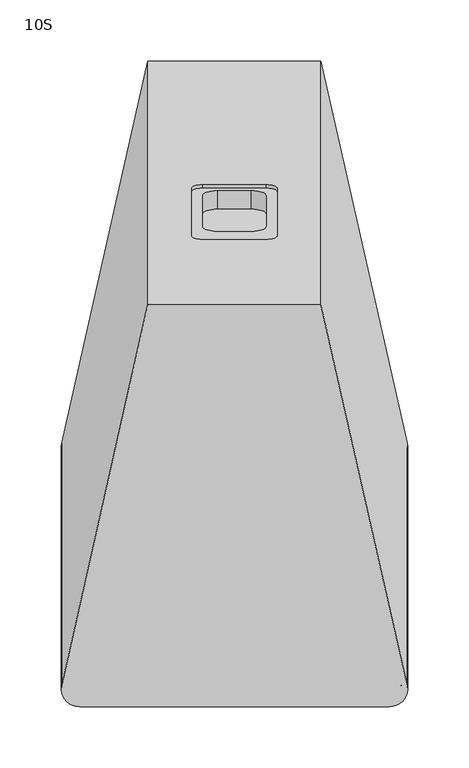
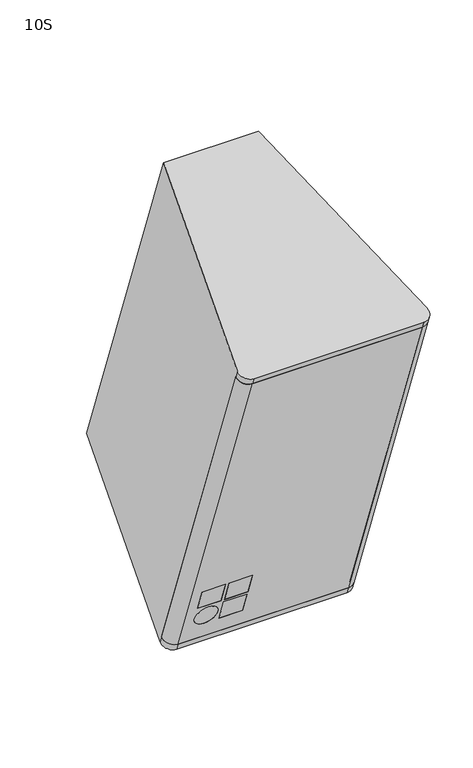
"""IFC4 building model written with IfcOpenShell, lengths in millimetres: proxy geometry, d&b xS-Series 10S Point Source : 10S."""

from ifc_helpers import new_model, si_unit, point, frame, frame_2d, origin, place, context, project, spatial, polyline, circle_curve, trimmed, segment, composite_curve, outline, extrude, source, transform, mapped, element, save
from ifc_brep_helpers import plane_surface, cylinder_surface, revolved_surface, advanced_brep


def proxy_10s_61797318(model_context):
    return source(origin(), model_context, "Body", "SolidModel", [
        extrude(outline(composite_curve([segment(trimmed(circle_curve(frame_2d((267.6252994, -3.1186753)), 10.0), [point((277.1265553, 0.0))], [point((267.6252994, -13.1186754))], False, "CARTESIAN"), True, "CONTINUOUS"), segment(polyline([(267.6252994, -13.1186754), (14.672214, -13.1186754)]), True, "CONTINUOUS"), segment(trimmed(circle_curve(frame_2d((14.672214, -3.1186753)), 10.0), [point((14.672214, -13.1186754))], [point((5.1709581, 0.0))], False, "CARTESIAN"), True, "CONTINUOUS"), segment(polyline([(5.1709581, 0.0), (277.1265553, 0.0)]), True, "CONTINUOUS")], self_intersect=False)), frame((-141.1487567, -2.2137391, -297.7113336), z_axis=(0.0, -0.34202014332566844, 0.9396926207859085), x_axis=(1.0, 0.0, 0.0)), (0.0, 0.0, 1.0), 558.0),
        advanced_brep(
        [(-76.4765427, -54.8098195, -206.180253), (-76.4765427, -50.1113564, -204.4701523), (-76.4765427, -38.1406514, -237.359394), (-76.4765427, -42.8391145, -239.0694948), (-111.4765427, -38.1406514, -237.359394), (-111.4765427, -42.8391145, -239.0694948), (-111.4765427, -50.1113564, -204.4701523), (-111.4765427, -54.8098195, -206.180253), (-36.4765427, -54.8098195, -206.180253), (-36.4765427, -50.1113564, -204.4701523), (-36.4765427, -38.1406514, -237.359394), (-36.4765427, -42.8391145, -239.0694948), (-71.4765427, -38.1406514, -237.359394), (-71.4765427, -42.8391145, -239.0694948), (-71.4765427, -50.1113564, -204.4701523), (-71.4765427, -54.8098195, -206.180253), (-36.4765427, -41.1290138, -243.7679579), (-36.4765427, -36.4305507, -242.0578571), (-36.4765427, -24.4598456, -274.9470989), (-36.4765427, -29.1583087, -276.6571996), (-71.4765427, -24.4598456, -274.9470989), (-71.4765427, -29.1583087, -276.6571996), (-71.4765427, -36.4305507, -242.0578571), (-71.4765427, -41.1290138, -243.7679579), (-93.9765427, -29.1583087, -276.6571996), (-93.9765427, -24.4598456, -274.9470989), (-93.9765427, -36.4305507, -242.0578571), (-93.9765427, -41.1290138, -243.7679579), (-126.4765427, -210.0869646, 220.4401968), (126.4765427, -210.0869646, 220.4401968), (141.1487567, -193.060979, 226.6371488), (135.9777986, -193.060979, 226.6371488), (126.4765427, -205.3885015, 222.1502975), (-126.4765427, -205.3885015, 222.1502975), (-135.9777986, -193.060979, 226.6371488), (-141.1487567, -193.060979, 226.6371488), (-126.4765427, -19.2397246, -303.9082856), (-141.1487567, -2.2137391, -297.7113336), (-135.9777986, -2.2137391, -297.7113336), (-126.4765427, -14.5412615, -302.1981849), (126.4765427, -14.5412615, -302.1981849), (135.9777986, -2.2137391, -297.7113336), (141.1487567, -2.2137391, -297.7113336), (126.4765427, -19.2397246, -303.9082856)],
        [
            (0, 1),
            (1, 2),
            (2, 3),
            (3, 0),
            (2, 4),
            (4, 5),
            (5, 3),
            (4, 6),
            (6, 7),
            (7, 5),
            (0, 7),
            (6, 1),
            (8, 9),
            (9, 10),
            (10, 11),
            (11, 8),
            (10, 12),
            (12, 13),
            (13, 11),
            (12, 14),
            (14, 15),
            (15, 13),
            (8, 15),
            (14, 9),
            (16, 17),
            (17, 18),
            (18, 19),
            (19, 16),
            (18, 20),
            (20, 21),
            (21, 19),
            (20, 22),
            (22, 23),
            (23, 21),
            (16, 23),
            (22, 17),
            (24, 25),
            (25, 26, circle_curve(frame((-93.9765427, -30.4451982, -258.502478), z_axis=(0.0, 0.939692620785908, 0.34202014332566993), x_axis=(0.0, -0.34202014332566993, 0.939692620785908)), 17.5)),
            (26, 27),
            (27, 24, circle_curve(frame((-93.9765427, -35.1436613, -260.2125787), z_axis=(0.0, -0.939692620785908, -0.34202014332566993), x_axis=(0.0, -0.34202014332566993, 0.939692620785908)), 17.5)),
            (24, 27, circle_curve(frame((-93.9765427, -35.1436613, -260.2125787), z_axis=(0.0, -0.939692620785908, -0.34202014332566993), x_axis=(0.0, -0.34202014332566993, 0.939692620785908)), 17.5)),
            (26, 25, circle_curve(frame((-93.9765427, -30.4451982, -258.502478), z_axis=(0.0, 0.939692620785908, 0.34202014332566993), x_axis=(0.0, -0.34202014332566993, 0.939692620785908)), 17.5)),
            (28, 29),
            (29, 30, circle_curve(frame((126.4765427, -195.9915753, 225.570499), z_axis=(0.0, -0.34202014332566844, 0.9396926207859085), x_axis=(0.0, -0.9396926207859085, -0.34202014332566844)), 15.0)),
            (30, 31),
            (31, 32, circle_curve(frame((126.4765427, -195.9915753, 225.570499), z_axis=(0.0, 0.34202014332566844, -0.9396926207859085), x_axis=(0.0, -0.9396926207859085, -0.34202014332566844)), 10.0)),
            (32, 33),
            (33, 34, circle_curve(frame((-126.4765427, -195.9915753, 225.570499), z_axis=(0.0, 0.34202014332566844, -0.9396926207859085), x_axis=(0.0, -0.9396926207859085, -0.34202014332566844)), 10.0)),
            (34, 35),
            (35, 28, circle_curve(frame((-126.4765427, -195.9915753, 225.570499), z_axis=(0.0, -0.34202014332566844, 0.9396926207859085), x_axis=(0.0, -0.9396926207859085, -0.34202014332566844)), 15.0)),
            (36, 37, circle_curve(frame((-126.4765427, -5.1443353, -298.7779834), z_axis=(0.0, 0.34202014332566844, -0.9396926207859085), x_axis=(0.0, -0.9396926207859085, -0.34202014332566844)), 15.0)),
            (37, 38),
            (38, 39, circle_curve(frame((-126.4765427, -5.1443353, -298.7779834), z_axis=(0.0, -0.34202014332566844, 0.9396926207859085), x_axis=(0.0, -0.9396926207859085, -0.34202014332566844)), 10.0)),
            (39, 40),
            (40, 41, circle_curve(frame((126.4765427, -5.1443353, -298.7779834), z_axis=(0.0, -0.34202014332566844, 0.9396926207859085), x_axis=(0.0, -0.9396926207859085, -0.34202014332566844)), 10.0)),
            (41, 42),
            (42, 43, circle_curve(frame((126.4765427, -5.1443353, -298.7779834), z_axis=(0.0, 0.34202014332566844, -0.9396926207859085), x_axis=(0.0, -0.9396926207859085, -0.34202014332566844)), 15.0)),
            (43, 36),
            (28, 36),
            (43, 29),
            (42, 30),
            (41, 31),
            (40, 32),
            (39, 33),
            (38, 34),
            (37, 35),
        ],
        [
            plane_surface(frame((-76.4765427, -42.8391145, -239.0694948), z_axis=(-1.0, 0.0, 0.0), x_axis=(0.0, 0.9396926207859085, 0.34202014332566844))),
            plane_surface(frame((-111.4765427, -42.8391145, -239.0694948), z_axis=(0.0, -0.34202014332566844, 0.9396926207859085), x_axis=(0.0, 0.9396926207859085, 0.34202014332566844))),
            plane_surface(frame((-111.4765427, -54.8098195, -206.180253), z_axis=(1.0, 0.0, 0.0), x_axis=(0.0, 0.9396926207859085, 0.34202014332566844))),
            plane_surface(frame((-76.4765427, -54.8098195, -206.180253), z_axis=(0.0, 0.34202014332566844, -0.9396926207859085), x_axis=(0.0, 0.9396926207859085, 0.34202014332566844))),
            plane_surface(frame((-36.4765427, -42.8391145, -239.0694948), z_axis=(-1.0, 0.0, 0.0), x_axis=(0.0, 0.9396926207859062, 0.3420201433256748))),
            plane_surface(frame((-71.4765427, -42.8391145, -239.0694948), z_axis=(0.0, -0.3420201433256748, 0.9396926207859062), x_axis=(0.0, 0.9396926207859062, 0.3420201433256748))),
            plane_surface(frame((-71.4765427, -54.8098195, -206.180253), z_axis=(1.0, 0.0, 0.0), x_axis=(0.0, 0.9396926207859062, 0.3420201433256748))),
            plane_surface(frame((-36.4765427, -54.8098195, -206.180253), z_axis=(0.0, 0.3420201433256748, -0.9396926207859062), x_axis=(0.0, 0.9396926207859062, 0.3420201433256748))),
            plane_surface(frame((-36.4765427, -29.1583087, -276.6571996), z_axis=(-1.0, 0.0, 0.0), x_axis=(0.0, 0.9396926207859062, 0.3420201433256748))),
            plane_surface(frame((-71.4765427, -29.1583087, -276.6571996), z_axis=(0.0, -0.3420201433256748, 0.9396926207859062), x_axis=(0.0, 0.9396926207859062, 0.3420201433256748))),
            plane_surface(frame((-71.4765427, -41.1290138, -243.7679579), z_axis=(1.0, 0.0, 0.0), x_axis=(0.0, 0.9396926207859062, 0.3420201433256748))),
            plane_surface(frame((-36.4765427, -41.1290138, -243.7679579), z_axis=(0.0, 0.3420201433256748, -0.9396926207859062), x_axis=(0.0, 0.9396926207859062, 0.3420201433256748))),
            revolved_surface(polyline([(-93.9765427, -41.129013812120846, -243.76795786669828), (-93.9765427, -36.43055063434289, -242.0578571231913)]), (-93.9765427, -4.3665744, -249.0106352), (0.0, -0.939692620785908, -0.34202014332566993)),
            plane_surface(frame((126.4765427, -210.0869646, 220.4401968), z_axis=(0.0, -0.34202014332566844, 0.9396926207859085), x_axis=(1.0, 0.0, 0.0))),
            plane_surface(frame((126.4765427, -19.2397246, -303.9082856), z_axis=(0.0, 0.34202014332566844, -0.9396926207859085), x_axis=(-1.0, 0.0, 0.0))),
            plane_surface(frame((-126.4765427, -210.0869646, 220.4401968), z_axis=(0.0, -0.9396926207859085, -0.34202014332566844), x_axis=(0.0, 0.34202014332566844, -0.9396926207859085))),
            cylinder_surface(frame((126.4765427, -5.1443353, -298.7779834), z_axis=(0.0, -0.34202014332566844, 0.9396926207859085), x_axis=(0.0, -0.9396926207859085, -0.34202014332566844)), 15.0),
            plane_surface(frame((141.1487567, -193.060979, 226.6371488), z_axis=(0.0, 0.9396926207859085, 0.34202014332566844), x_axis=(0.0, 0.34202014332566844, -0.9396926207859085))),
            revolved_surface(polyline([(126.4765427, -14.541261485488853, -302.1981848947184), (126.4765427, -205.38850148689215, 222.15029757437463)]), (126.4765427, -5.1443353, -298.7779834), (0.0, 0.34202014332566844, -0.9396926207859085)),
            plane_surface(frame((126.4765427, -205.3885015, 222.1502975), z_axis=(0.0, 0.9396926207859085, 0.34202014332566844), x_axis=(0.0, 0.34202014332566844, -0.9396926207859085))),
            revolved_surface(polyline([(-126.4765427, -14.541261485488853, -302.1981848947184), (-126.4765427, -205.38850148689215, 222.15029757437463)]), (-126.4765427, -5.1443353, -298.7779834), (0.0, 0.34202014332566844, -0.9396926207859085)),
            plane_surface(frame((-135.9777986, -193.060979, 226.6371488), z_axis=(0.0, 0.9396926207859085, 0.34202014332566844), x_axis=(0.0, 0.34202014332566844, -0.9396926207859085))),
            cylinder_surface(frame((-126.4765427, -5.1443353, -298.7779834), z_axis=(0.0, -0.34202014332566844, 0.9396926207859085), x_axis=(0.0, -0.9396926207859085, -0.34202014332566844)), 15.0),
        ],
        [
            (0, [[1, 2, 3, 4]]),
            (1, [[-3, 5, 6, 7]]),
            (2, [[-6, 8, 9, 10]]),
            (3, [[-1, 11, -9, 12]]),
            (4, [[13, 14, 15, 16]]),
            (5, [[-15, 17, 18, 19]]),
            (6, [[-18, 20, 21, 22]]),
            (7, [[-13, 23, -21, 24]]),
            (8, [[25, 26, 27, 28]]),
            (9, [[-27, 29, 30, 31]]),
            (10, [[-30, 32, 33, 34]]),
            (11, [[-25, 35, -33, 36]]),
            (12, [[37, 38, 39, 40]]),
            (12, [[-37, 41, -39, 42]]),
            (13, [[43, 44, 45, 46, 47, 48, 49, 50]]),
            (14, [[51, 52, 53, 54, 55, 56, 57, 58]]),
            (15, [[-43, 59, -58, 60], [-4, -7, -10, -11], [-16, -19, -22, -23], [-28, -31, -34, -35], [-40, -41]]),
            (16, [[-44, -60, -57, 61]]),
            (17, [[-45, -61, -56, 62]]),
            (18, [[-46, -62, -55, 63]]),
            (19, [[-47, -63, -54, 64], [-2, -12, -8, -5], [-14, -24, -20, -17], [-26, -36, -32, -29], [-38, -42]]),
            (20, [[-48, -64, -53, 65]]),
            (21, [[-49, -65, -52, 66]]),
            (22, [[-50, -66, -51, -59]]),
        ],
    ),
        extrude(outline(polyline([(0.0, -35.0), (0.0, 0.0), (5.0, 0.0), (5.0, -35.0), (0.0, -35.0)])), frame((-111.4765427, -42.8391145, -239.0694948), z_axis=(0.0, -0.34202014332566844, 0.9396926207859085), x_axis=(0.0, 0.9396926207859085, 0.34202014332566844)), (0.0, 0.0, 1.0), 35.0),
        extrude(outline(polyline([(0.0, -35.0), (0.0, 0.0), (5.0, 0.0), (5.0, -35.0), (0.0, -35.0)])), frame((-71.4765427, -42.8391145, -239.0694948), z_axis=(0.0, -0.3420201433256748, 0.9396926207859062), x_axis=(0.0, 0.9396926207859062, 0.3420201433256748)), (0.0, 0.0, 1.0), 35.0),
        extrude(outline(polyline([(0.0, -35.0), (0.0, 0.0), (5.0, 0.0), (5.0, -35.0), (0.0, -35.0)])), frame((-71.4765427, -29.1583087, -276.6571996), z_axis=(0.0, -0.3420201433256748, 0.9396926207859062), x_axis=(0.0, 0.9396926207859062, 0.3420201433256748)), (0.0, 0.0, 1.0), 35.0),
        extrude(outline(composite_curve([segment(trimmed(circle_curve(frame_2d((-12.5, -57.5)), 17.5), [point((-12.5, -75.0000001))], [point((-12.5, -40.0000001))], False, "CARTESIAN"), True, "CONTINUOUS"), segment(trimmed(circle_curve(frame_2d((-12.5, -57.5)), 17.5), [point((-12.5, -40.0000001))], [point((-12.5, -75.0000001))], False, "CARTESIAN"), True, "CONTINUOUS")], self_intersect=False)), frame((-106.4765427, -54.8098195, -206.180253), z_axis=(0.0, 0.939692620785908, 0.34202014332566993), x_axis=(-1.0, 0.0, 0.0)), (0.0, 0.0, 1.0), 5.0),
        advanced_brep(
        [(-141.1487567, 1.5484825, -308.0479525), (-70.6052034, 313.4149143, -194.5378543), (70.6052034, 313.4149143, -194.5378543), (141.1487567, 1.5484825, -308.0479525), (126.4765427, -15.477503, -314.2449044), (-126.4765427, -15.477503, -314.2449044), (141.1487567, -196.8232006, 236.9737676), (70.6052034, 115.0432311, 350.4838658), (-70.6052034, 115.0432311, 350.4838658), (-141.1487567, -196.8232006, 236.9737676), (-126.4765427, -213.8491861, 230.7768156), (126.4765427, -213.8491861, 230.7768156), (-35.0, 168.3154568, 195.3482156), (-26.0, 165.2372755, 203.8054492), (26.0, 165.2372755, 203.8054492), (35.0, 168.3154568, 195.3482156), (35.0, 206.6217128, 90.102642), (26.0, 209.6998941, 81.6454084), (-26.0, 209.6998941, 81.6454084), (-35.0, 206.6217128, 90.102642), (-25.9695321, 203.5331109, 98.5885061), (-13.9695321, 207.6373526, 87.3121946), (13.9695321, 207.6373526, 87.3121946), (25.9695321, 203.5331109, 98.5885061), (25.9695321, 178.5864817, 167.1288065), (13.9695321, 174.48224, 178.4051179), (-13.9695321, 174.48224, 178.4051179), (-25.9695321, 178.5864817, 167.1288065), (-35.0, 171.1345346, 196.374276), (-26.0, 168.0563533, 204.8315096), (26.0, 168.0563533, 204.8315096), (35.0, 171.1345346, 196.374276), (35.0, 209.4407907, 91.1287025), (26.0, 212.518972, 82.6714689), (-26.0, 212.518972, 82.6714689), (-35.0, 209.4407907, 91.1287025), (-13.9695321, 192.6022707, 81.8398723), (-25.9695321, 188.498029, 93.1161838), (-25.9695321, 163.5513998, 161.6564842), (-13.9695321, 159.4471581, 172.9327957), (13.9695321, 159.4471581, 172.9327957), (25.9695321, 163.5513998, 161.6564842), (25.9695321, 188.498029, 93.1161838), (13.9695321, 192.6022707, 81.8398723), (141.1487567, -193.060979, 226.6371488), (126.4765427, -210.0869646, 220.4401968), (-126.4765427, -210.0869646, 220.4401968), (-141.1487567, -193.060979, 226.6371488), (-141.1487567, -2.2137391, -297.7113336), (-126.4765427, -19.2397246, -303.9082856), (126.4765427, -19.2397246, -303.9082856), (141.1487567, -2.2137391, -297.7113336)],
        [
            (0, 1),
            (1, 2),
            (2, 3),
            (3, 4, circle_curve(frame((126.4765427, -1.3821137, -309.1146023), z_axis=(0.0, 0.34202014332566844, -0.9396926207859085), x_axis=(0.0, -0.9396926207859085, -0.34202014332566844)), 15.0)),
            (4, 5),
            (5, 0, circle_curve(frame((-126.4765427, -1.3821137, -309.1146023), z_axis=(0.0, 0.34202014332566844, -0.9396926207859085), x_axis=(0.0, -0.9396926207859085, -0.34202014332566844)), 15.0)),
            (6, 7),
            (7, 8),
            (8, 9),
            (9, 10, circle_curve(frame((-126.4765427, -199.7537968, 235.9071178), z_axis=(0.0, -0.34202014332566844, 0.9396926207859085), x_axis=(0.0, -0.9396926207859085, -0.34202014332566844)), 15.0)),
            (10, 11),
            (11, 6, circle_curve(frame((126.4765427, -199.7537968, 235.9071178), z_axis=(0.0, -0.34202014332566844, 0.9396926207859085), x_axis=(0.0, -0.9396926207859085, -0.34202014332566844)), 15.0)),
            (12, 13, circle_curve(frame((-26.0, 168.3154568, 195.3482156), z_axis=(0.0, 0.9396926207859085, 0.34202014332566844), x_axis=(-1.0, 0.0, 0.0)), 9.0)),
            (13, 14),
            (14, 15, circle_curve(frame((26.0, 168.3154568, 195.3482156), z_axis=(0.0, 0.9396926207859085, 0.34202014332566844), x_axis=(-1.0, 0.0, 0.0)), 9.0)),
            (15, 16),
            (16, 17, circle_curve(frame((26.0, 206.6217128, 90.102642), z_axis=(0.0, 0.9396926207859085, 0.34202014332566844), x_axis=(-1.0, 0.0, 0.0)), 9.0)),
            (17, 18),
            (18, 19, circle_curve(frame((-26.0, 206.6217128, 90.102642), z_axis=(0.0, 0.9396926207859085, 0.34202014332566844), x_axis=(-1.0, 0.0, 0.0)), 9.0)),
            (19, 12),
            (20, 21, circle_curve(frame((-13.9695321, 203.5331109, 98.5885061), z_axis=(0.0, -0.9396926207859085, -0.34202014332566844), x_axis=(-1.0, 0.0, 0.0)), 12.0)),
            (21, 22),
            (22, 23, circle_curve(frame((13.9695321, 203.5331109, 98.5885061), z_axis=(0.0, -0.9396926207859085, -0.34202014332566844), x_axis=(-1.0, 0.0, 0.0)), 12.0)),
            (23, 24),
            (24, 25, circle_curve(frame((13.9695321, 178.5864817, 167.1288065), z_axis=(0.0, -0.9396926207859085, -0.34202014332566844), x_axis=(-1.0, 0.0, 0.0)), 12.0)),
            (25, 26),
            (26, 27, circle_curve(frame((-13.9695321, 178.5864817, 167.1288065), z_axis=(0.0, -0.9396926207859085, -0.34202014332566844), x_axis=(-1.0, 0.0, 0.0)), 12.0)),
            (27, 20),
            (12, 28),
            (28, 29, circle_curve(frame((-26.0, 171.1345346, 196.374276), z_axis=(0.0, 0.9396926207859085, 0.34202014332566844), x_axis=(-1.0, 0.0, 0.0)), 9.0)),
            (29, 13),
            (29, 30),
            (30, 14),
            (30, 31, circle_curve(frame((26.0, 171.1345346, 196.374276), z_axis=(0.0, 0.9396926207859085, 0.34202014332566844), x_axis=(-1.0, 0.0, 0.0)), 9.0)),
            (31, 15),
            (31, 32),
            (32, 16),
            (32, 33, circle_curve(frame((26.0, 209.4407907, 91.1287025), z_axis=(0.0, 0.9396926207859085, 0.34202014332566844), x_axis=(-1.0, 0.0, 0.0)), 9.0)),
            (33, 17),
            (33, 34),
            (34, 18),
            (34, 35, circle_curve(frame((-26.0, 209.4407907, 91.1287025), z_axis=(0.0, 0.9396926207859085, 0.34202014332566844), x_axis=(-1.0, 0.0, 0.0)), 9.0)),
            (35, 19),
            (35, 28),
            (36, 37, circle_curve(frame((-13.9695321, 188.498029, 93.1161838), z_axis=(0.0, 0.9396926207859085, 0.34202014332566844), x_axis=(-1.0, 0.0, 0.0)), 12.0)),
            (37, 38),
            (38, 39, circle_curve(frame((-13.9695321, 163.5513998, 161.6564842), z_axis=(0.0, 0.9396926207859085, 0.34202014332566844), x_axis=(-1.0, 0.0, 0.0)), 12.0)),
            (39, 40),
            (40, 41, circle_curve(frame((13.9695321, 163.5513998, 161.6564842), z_axis=(0.0, 0.9396926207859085, 0.34202014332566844), x_axis=(-1.0, 0.0, 0.0)), 12.0)),
            (41, 42),
            (42, 43, circle_curve(frame((13.9695321, 188.498029, 93.1161838), z_axis=(0.0, 0.9396926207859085, 0.34202014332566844), x_axis=(-1.0, 0.0, 0.0)), 12.0)),
            (43, 36),
            (44, 45, circle_curve(frame((126.4765427, -195.9915753, 225.570499), z_axis=(0.0, 0.34202014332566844, -0.9396926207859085), x_axis=(0.0, -0.9396926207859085, -0.34202014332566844)), 15.0)),
            (45, 46),
            (46, 47, circle_curve(frame((-126.4765427, -195.9915753, 225.570499), z_axis=(0.0, 0.34202014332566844, -0.9396926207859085), x_axis=(0.0, -0.9396926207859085, -0.34202014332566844)), 15.0)),
            (47, 44),
            (48, 49, circle_curve(frame((-126.4765427, -5.1443353, -298.7779834), z_axis=(0.0, -0.34202014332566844, 0.9396926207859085), x_axis=(0.0, -0.9396926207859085, -0.34202014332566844)), 15.0)),
            (49, 50),
            (50, 51, circle_curve(frame((126.4765427, -5.1443353, -298.7779834), z_axis=(0.0, -0.34202014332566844, 0.9396926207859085), x_axis=(0.0, -0.9396926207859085, -0.34202014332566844)), 15.0)),
            (51, 48),
            (0, 48),
            (48, 47),
            (47, 9),
            (8, 1),
            (7, 2),
            (6, 44),
            (44, 51),
            (51, 3),
            (36, 21),
            (20, 37),
            (27, 38),
            (26, 39),
            (25, 40),
            (24, 41),
            (23, 42),
            (22, 43),
            (46, 10),
            (45, 11),
            (5, 49),
            (4, 50),
        ],
        [
            plane_surface(frame((-73.0301705, 302.6943623, -198.4398161), z_axis=(0.0, 0.34202014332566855, -0.9396926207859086), x_axis=(0.20791169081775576, 0.919158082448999, 0.3345461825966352))),
            plane_surface(frame((-73.0301705, 104.3226791, 346.581904), z_axis=(0.0, -0.34202014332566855, 0.9396926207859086), x_axis=(-0.20791169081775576, -0.919158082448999, -0.3345461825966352))),
            plane_surface(frame((-35.0, 168.3154568, 195.3482156), z_axis=(0.0, 0.9396926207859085, 0.34202014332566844), x_axis=(0.0, 0.34202014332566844, -0.9396926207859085))),
            revolved_surface(polyline([(-35.0, 171.13453459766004, 196.37427600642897), (-35.0, 168.31545679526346, 195.34821559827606)]), (-26.0, 168.3154568, 195.3482156), (0.0, 0.9396926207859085, 0.34202014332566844)),
            plane_surface(frame((-26.0, 168.0563533, 204.8315096), z_axis=(0.0, 0.34202014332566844, -0.9396926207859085), x_axis=(0.0, -0.9396926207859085, -0.34202014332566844))),
            revolved_surface(polyline([(17.0, 171.13453459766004, 196.37427600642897), (17.0, 168.31545679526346, 195.34821559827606)]), (26.0, 168.3154568, 195.3482156), (0.0, 0.9396926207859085, 0.34202014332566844)),
            plane_surface(frame((35.0, 171.1345346, 196.374276), z_axis=(-1.0, 0.0, 0.0), x_axis=(0.0, -0.9396926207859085, -0.34202014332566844))),
            revolved_surface(polyline([(17.0, 209.4407907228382, 91.12870245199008), (17.0, 206.6217128, 90.102642)]), (26.0, 206.6217128, 90.102642), (0.0, 0.9396926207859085, 0.34202014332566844)),
            plane_surface(frame((26.0, 212.518972, 82.6714689), z_axis=(0.0, -0.34202014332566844, 0.9396926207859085), x_axis=(0.0, -0.9396926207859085, -0.34202014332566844))),
            revolved_surface(polyline([(-35.0, 209.4407907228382, 91.12870245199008), (-35.0, 206.6217128, 90.102642)]), (-26.0, 206.6217128, 90.102642), (0.0, 0.9396926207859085, 0.34202014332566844)),
            plane_surface(frame((-35.0, 209.4407907, 91.1287025), z_axis=(1.0, 0.0, 0.0), x_axis=(0.0, -0.9396926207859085, -0.34202014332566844))),
            plane_surface(frame((-25.9695321, 188.498029, 93.1161838), z_axis=(0.0, 0.9396926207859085, 0.34202014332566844), x_axis=(0.0, 0.34202014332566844, -0.9396926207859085))),
            plane_surface(frame((-126.4765427, -210.0869646, 220.4401968), z_axis=(0.0, 0.34202014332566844, -0.9396926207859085), x_axis=(-1.0, 0.0, 0.0))),
            plane_surface(frame((-126.4765427, -19.2397246, -303.9082856), z_axis=(0.0, -0.34202014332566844, 0.9396926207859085), x_axis=(1.0, 0.0, 0.0))),
            plane_surface(frame((-141.1487567, 1.5484825, -308.0479525), z_axis=(-0.9781476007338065, 0.19537308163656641, 0.07110998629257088), x_axis=(0.0, -0.34202014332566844, 0.9396926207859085))),
            plane_surface(frame((-70.6052034, 313.4149143, -194.5378543), z_axis=(0.0, 0.9396926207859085, 0.34202014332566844), x_axis=(0.0, -0.34202014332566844, 0.9396926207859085))),
            plane_surface(frame((70.6052034, 313.4149143, -194.5378543), z_axis=(0.9781476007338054, 0.19537308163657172, 0.07110998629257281), x_axis=(0.0, -0.34202014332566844, 0.9396926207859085))),
            plane_surface(frame((141.1487567, 1.5484825, -308.0479525), z_axis=(0.0, -0.9396926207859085, -0.34202014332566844), x_axis=(0.0, -0.34202014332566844, 0.9396926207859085))),
            revolved_surface(polyline([(-25.969532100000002, 203.53311090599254, 98.58850608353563), (-25.969532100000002, 188.49802896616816, 93.11618378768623)]), (-13.9695321, 188.498029, 93.1161838), (0.0, 0.9396926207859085, 0.34202014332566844)),
            plane_surface(frame((-25.9695321, 206.3521888, 99.6145665), z_axis=(1.0, 0.0, 0.0), x_axis=(0.0, -0.9396926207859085, -0.34202014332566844))),
            revolved_surface(polyline([(-25.969532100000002, 178.58648170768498, 167.12880648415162), (-25.969532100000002, 163.5513998, 161.6564842)]), (-13.9695321, 163.5513998, 161.6564842), (0.0, 0.9396926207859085, 0.34202014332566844)),
            plane_surface(frame((-13.9695321, 177.3013178, 179.4311784), z_axis=(0.0, 0.34202014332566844, -0.9396926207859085), x_axis=(0.0, -0.9396926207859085, -0.34202014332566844))),
            revolved_surface(polyline([(1.9695321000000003, 178.58648170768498, 167.12880648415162), (1.9695321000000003, 163.5513998, 161.6564842)]), (13.9695321, 163.5513998, 161.6564842), (0.0, 0.9396926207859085, 0.34202014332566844)),
            plane_surface(frame((25.9695321, 181.4055596, 168.1548669), z_axis=(-1.0, 0.0, 0.0), x_axis=(0.0, -0.9396926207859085, -0.34202014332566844))),
            revolved_surface(polyline([(1.9695321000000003, 203.53311090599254, 98.58850608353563), (1.9695321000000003, 188.49802896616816, 93.11618378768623)]), (13.9695321, 188.498029, 93.1161838), (0.0, 0.9396926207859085, 0.34202014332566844)),
            plane_surface(frame((13.9695321, 210.4564305, 88.338255), z_axis=(0.0, -0.34202014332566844, 0.9396926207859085), x_axis=(0.0, -0.9396926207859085, -0.34202014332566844))),
            cylinder_surface(frame((-126.4765427, -195.9915753, 225.570499), z_axis=(0.0, -0.34202014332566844, 0.9396926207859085), x_axis=(0.0, -0.9396926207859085, -0.34202014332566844)), 15.0),
            plane_surface(frame((-126.4765427, -213.8491861, 230.7768156), z_axis=(0.0, -0.9396926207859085, -0.34202014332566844), x_axis=(0.0, 0.34202014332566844, -0.9396926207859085))),
            cylinder_surface(frame((126.4765427, -195.9915753, 225.570499), z_axis=(0.0, -0.34202014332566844, 0.9396926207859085), x_axis=(0.0, -0.9396926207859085, -0.34202014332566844)), 15.0),
            cylinder_surface(frame((-126.4765427, -1.3821137, -309.1146023), z_axis=(0.0, -0.34202014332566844, 0.9396926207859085), x_axis=(0.0, -0.9396926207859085, -0.34202014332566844)), 15.0),
            plane_surface(frame((-126.4765427, -19.2397246, -303.9082856), z_axis=(0.0, -0.9396926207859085, -0.34202014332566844), x_axis=(0.0, 0.34202014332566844, -0.9396926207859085))),
            cylinder_surface(frame((126.4765427, -1.3821137, -309.1146023), z_axis=(0.0, -0.34202014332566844, 0.9396926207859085), x_axis=(0.0, -0.9396926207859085, -0.34202014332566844)), 15.0),
        ],
        [
            (0, [[1, 2, 3, 4, 5, 6]]),
            (1, [[7, 8, 9, 10, 11, 12]]),
            (2, [[13, 14, 15, 16, 17, 18, 19, 20], [21, 22, 23, 24, 25, 26, 27, 28]]),
            (3, [[-13, 29, 30, 31]]),
            (4, [[-14, -31, 32, 33]]),
            (5, [[-15, -33, 34, 35]]),
            (6, [[-16, -35, 36, 37]]),
            (7, [[-17, -37, 38, 39]]),
            (8, [[-18, -39, 40, 41]]),
            (9, [[-19, -41, 42, 43]]),
            (10, [[-20, -43, 44, -29]]),
            (11, [[45, 46, 47, 48, 49, 50, 51, 52]]),
            (12, [[53, 54, 55, 56]]),
            (13, [[57, 58, 59, 60]]),
            (14, [[-1, 61, 62, 63, -9, 64]]),
            (15, [[-2, -64, -8, 65], [-30, -44, -42, -40, -38, -36, -34, -32]]),
            (16, [[-3, -65, -7, 66, 67, 68]]),
            (17, [[-56, -62, -60, -67]]),
            (18, [[-45, 69, -21, 70]]),
            (19, [[-46, -70, -28, 71]]),
            (20, [[-47, -71, -27, 72]]),
            (21, [[-48, -72, -26, 73]]),
            (22, [[-49, -73, -25, 74]]),
            (23, [[-50, -74, -24, 75]]),
            (24, [[-51, -75, -23, 76]]),
            (25, [[-52, -76, -22, -69]]),
            (26, [[-10, -63, -55, 77]]),
            (27, [[-11, -77, -54, 78]]),
            (28, [[-12, -78, -53, -66]]),
            (29, [[-57, -61, -6, 79]]),
            (30, [[-58, -79, -5, 80]]),
            (31, [[-59, -80, -4, -68]]),
        ],
    ),
    ])


if __name__ == "__main__":
    model = new_model("IFC4")
    model_context = context("Model", 3, world=origin())
    ifc_project = project(units=[si_unit("LENGTHUNIT", "METRE", prefix="MILLI")], contexts=[model_context])
    site = spatial("IfcSite", under=ifc_project)
    building = spatial("IfcBuilding", under=site)
    placement = place(None, origin())
    proxy_10s_shape = proxy_10s_61797318(model_context)
    element("IfcBuildingElementProxy", 1, Name="d&b xS-Series 10S Point Source : 10S", ObjectType="d&b xS-Series 10S Point Source : 10S", at=placement, inside=building, context=model_context, shape_type="MappedRepresentation", body=[
        mapped(proxy_10s_shape, transform((0.0, 0.0, 0.0), x_axis=(1.0, 0.0, 0.0), y_axis=(0.0, 1.0, 0.0), z_axis=(0.0, 0.0, 1.0))),
    ])
    save(model, "model.ifc")
